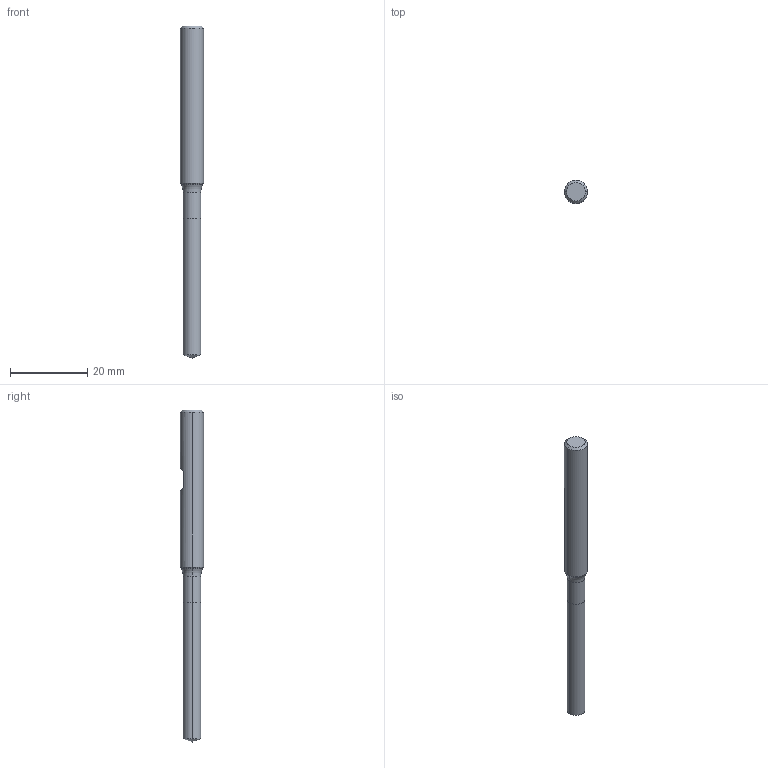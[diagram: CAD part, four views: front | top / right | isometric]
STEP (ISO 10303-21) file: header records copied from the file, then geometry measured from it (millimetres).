
FILE_DESCRIPTION (( 'STEP AP214' ), '1' );
FILE_NAME ('754.046.10_3D-model.step', '2023-08-21T11:46:23', ( '' ), ( '' ), 'SwSTEP 2.0', 'SolidWorks 2020', '' );
FILE_SCHEMA (( 'AUTOMOTIVE_DESIGN' ));
Length unit declared in the file: millimetre
Products named in the file (3): 754.046.10_3D-model; NOCUT-3D^Baugr54; CUT-3D^Baugr54
Assembly tree (2 placements, depth 2):
  754.046.10_3D-model
    CUT-3D^Baugr54
    NOCUT-3D^Baugr54
Bounding box: 6 x 6 x 86 mm (x, y, z)
Volume: 1886.5 mm3; surface area: 1487.4 mm2
Topology: 2 solids, 2 shells, 20 faces, 38 edges, 21 vertices
Faces by surface type: cone 6, cylinder 6, plane 6, torus 2
Entity records: 608 total; most frequent: DIRECTION 108, CARTESIAN_POINT 91, ORIENTED_EDGE 72, AXIS2_PLACEMENT_3D 46, EDGE_CURVE 36, EDGE_LOOP 21, VERTEX_POINT 21, ADVANCED_FACE 20
